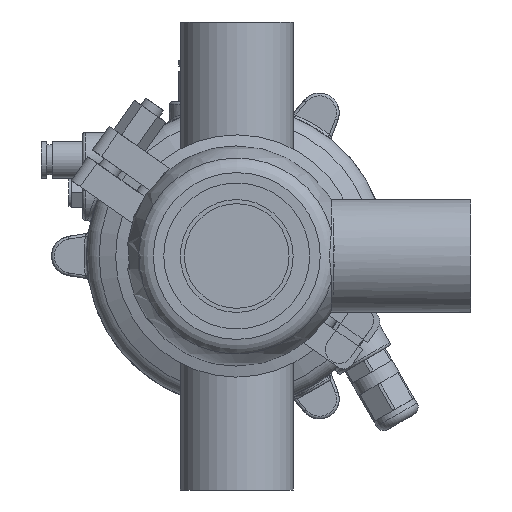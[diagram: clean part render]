
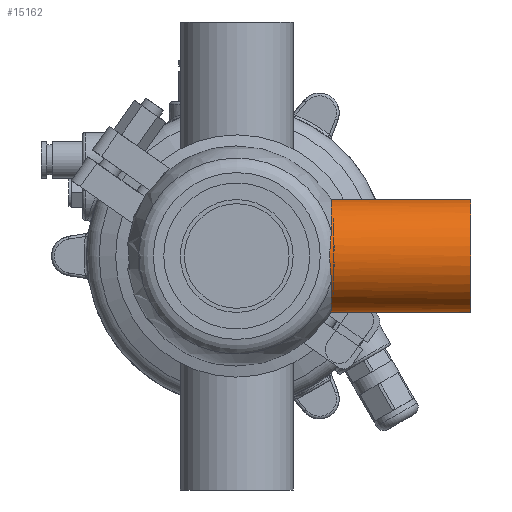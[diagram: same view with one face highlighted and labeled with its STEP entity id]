
A CAD part, front view. The second image highlights one B-rep face of the part: STEP entity #15162.
In plain terms, the highlighted cylindrical face has radius 20.5 mm (diameter 41 mm), a full revolution.
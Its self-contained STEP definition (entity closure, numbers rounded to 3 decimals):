
#609 = EDGE_CURVE ( 'NONE', #25990, #25990, #38393, .T. ) ;
#626 = EDGE_CURVE ( 'NONE', #27056, #35457, #33453, .T. ) ;
#3467 = CARTESIAN_POINT ( 'NONE',  ( 85., 0., 0. ) ) ;
#3768 = DIRECTION ( 'NONE',  ( 0., 0., 1. ) ) ;
#4346 = CARTESIAN_POINT ( 'NONE',  ( 33.908, -20.264, 3.204 ) ) ;
#8026 = CYLINDRICAL_SURFACE ( 'NONE', #57839, 20.5 ) ;
#8639 = CARTESIAN_POINT ( 'NONE',  ( 34.203, -19.556, -6.355 ) ) ;
#12091 = AXIS2_PLACEMENT_3D ( 'NONE', #3467, #27540, #3768 ) ;
#12643 = FACE_OUTER_BOUND ( 'NONE', #35576, .T. ) ;
#13824 = CARTESIAN_POINT ( 'NONE',  ( 33.914, -20.251, -3.21 ) ) ;
#15162 = ADVANCED_FACE ( 'NONE', ( #54383, #12643 ), #8026, .T. ) ;
#16610 = EDGE_LOOP ( 'NONE', ( #33672, #38611 ) ) ;
#17447 = CIRCLE ( 'NONE', #37857, 20.5 ) ;
#17522 = CARTESIAN_POINT ( 'NONE',  ( 33.772, -20.5, 0.802 ) ) ;
#23301 = CARTESIAN_POINT ( 'NONE',  ( 34.347, -19.003, 7.862 ) ) ;
#25547 = CARTESIAN_POINT ( 'NONE',  ( 34.347, -18.261, -9.316 ) ) ;
#25990 = VERTEX_POINT ( 'NONE', #34833 ) ;
#26662 = CARTESIAN_POINT ( 'NONE',  ( 0., 0., 0. ) ) ;
#26958 = CARTESIAN_POINT ( 'NONE',  ( 34.347, -18.261, 9.316 ) ) ;
#27056 = VERTEX_POINT ( 'NONE', #56831 ) ;
#27540 = DIRECTION ( 'NONE',  ( -1., 0., 0. ) ) ;
#27843 = CARTESIAN_POINT ( 'NONE',  ( 34.347, -18.261, -9.316 ) ) ;
#31814 = CARTESIAN_POINT ( 'NONE',  ( 33.803, -20.453, -1.604 ) ) ;
#32399 = CARTESIAN_POINT ( 'NONE',  ( 33.983, -20.109, -4.007 ) ) ;
#33453 = B_SPLINE_CURVE_WITH_KNOTS ( 'NONE', 3,
 ( #26958, #23301, #36374, #46154, #4346, #41886, #17522, #36088, #31814, #50433, #13824, #32399, #50144, #8639, #35784, #27843 ),
 .UNSPECIFIED., .F., .F.,
 ( 4, 2, 2, 2, 2, 2, 2, 4 ),
 ( 0., 0.005, 0.007, 0.01, 0.012, 0.013, 0.014, 0.019 ),
 .UNSPECIFIED. ) ;
#33672 = ORIENTED_EDGE ( 'NONE', *, *, #54788, .T. ) ;
#34833 = CARTESIAN_POINT ( 'NONE',  ( 85., 0., 20.5 ) ) ;
#35457 = VERTEX_POINT ( 'NONE', #25547 ) ;
#35576 = EDGE_LOOP ( 'NONE', ( #53693 ) ) ;
#35784 = CARTESIAN_POINT ( 'NONE',  ( 34.347, -19.003, -7.861 ) ) ;
#36088 = CARTESIAN_POINT ( 'NONE',  ( 33.772, -20.5, -0.802 ) ) ;
#36096 = DIRECTION ( 'NONE',  ( -1., 0., 0. ) ) ;
#36374 = CARTESIAN_POINT ( 'NONE',  ( 34.203, -19.557, 6.355 ) ) ;
#37857 = AXIS2_PLACEMENT_3D ( 'NONE', #52466, #38443, #38128 ) ;
#38128 = DIRECTION ( 'NONE',  ( 0., 0., 1. ) ) ;
#38393 = CIRCLE ( 'NONE', #12091, 20.5 ) ;
#38443 = DIRECTION ( 'NONE',  ( 1., 0., 0. ) ) ;
#38611 = ORIENTED_EDGE ( 'NONE', *, *, #626, .T. ) ;
#41886 = CARTESIAN_POINT ( 'NONE',  ( 33.803, -20.453, 1.603 ) ) ;
#45284 = DIRECTION ( 'NONE',  ( 0., 0., 1. ) ) ;
#46154 = CARTESIAN_POINT ( 'NONE',  ( 33.982, -20.121, 4.006 ) ) ;
#50144 = CARTESIAN_POINT ( 'NONE',  ( 34.02, -20.026, -4.401 ) ) ;
#50433 = CARTESIAN_POINT ( 'NONE',  ( 33.882, -20.311, -2.808 ) ) ;
#52466 = CARTESIAN_POINT ( 'NONE',  ( 34.347, 0., 0. ) ) ;
#53693 = ORIENTED_EDGE ( 'NONE', *, *, #609, .T. ) ;
#54383 = FACE_OUTER_BOUND ( 'NONE', #16610, .T. ) ;
#54788 = EDGE_CURVE ( 'NONE', #35457, #27056, #17447, .T. ) ;
#56831 = CARTESIAN_POINT ( 'NONE',  ( 34.347, -18.261, 9.316 ) ) ;
#57839 = AXIS2_PLACEMENT_3D ( 'NONE', #26662, #36096, #45284 ) ;
